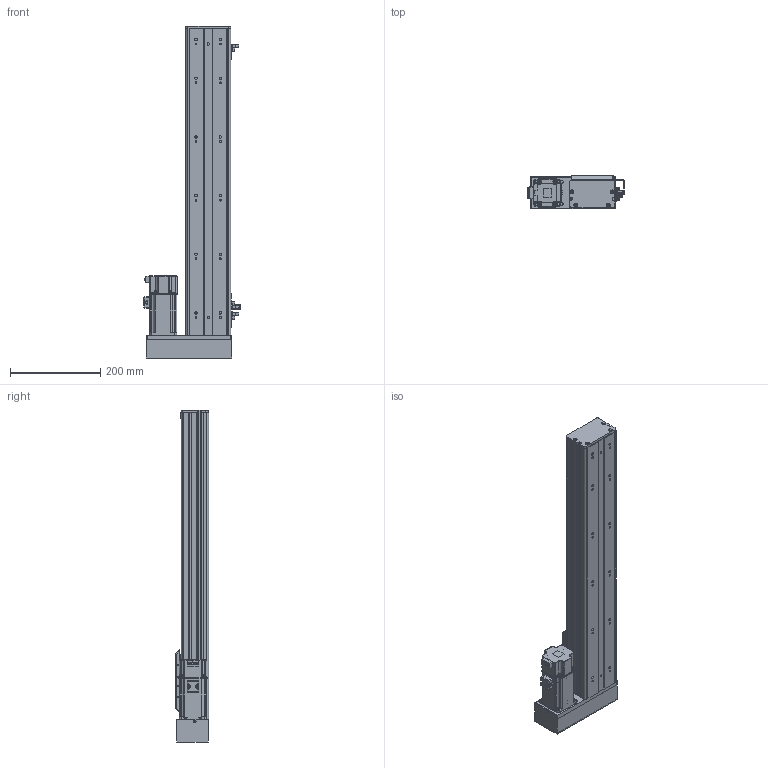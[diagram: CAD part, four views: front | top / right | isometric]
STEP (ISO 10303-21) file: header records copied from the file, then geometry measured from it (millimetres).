
FILE_DESCRIPTION (( 'STEP AP203' ), '1' );
FILE_NAME ('BOSW100-500-1610-1P-RM-M400W-O-S3（方程式2016）.step', '2020-10-10T07:17:52', ( '' ), ( '' ), 'SwSTEP 2.0', 'SolidWorks 2016', '' );
FILE_SCHEMA (( 'CONFIG_CONTROL_DESIGN' ));
Length unit declared in the file: millimetre
Products named in the file (14): BOSW-100-1P-DM-宽轨-钢带-500客户图纸; BOSW-100-1P-DM-宽轨-侧板-500客户图纸; BOSW&TW-100-詩湍揤沭(陔賦凳); BOSW-100-綴裔啣; S400W(SMA-L040); BOSW&TW-100-1P-賑雄釱欶; boS-100-LM&RM-三菱M400W马达板-宽轨; AIMS(W)-100-LM&RM-肮祭謫欶; BOSW-100-1P-DM-500諦誧芞; BOSW100-500-1610-1P-RM-M400W-O-S3（方程式2016）; 放大器内置U型微型光电传感器PM-L65; 新结构AIMSW-100-1P-宽&高轨共用-滑动座上组件; BOSW&TW-100-俋离覜茼え; 俋境嫖覜嘐隅啣
Assembly tree (19 placements, depth 2):
  BOSW100-500-1610-1P-RM-M400W-O-S3（方程式2016）
    BOSW-100-1P-DM-500諦誧芞
    BOSW-100-綴裔啣
    新结构AIMSW-100-1P-宽&高轨共用-滑动座上组件
    S400W(SMA-L040)
    BOSW&TW-100-詩湍揤沭(陔賦凳)  x2
    BOSW&TW-100-1P-賑雄釱欶
    BOSW-100-1P-DM-宽轨-侧板-500客户图纸  x2
    BOSW-100-1P-DM-宽轨-钢带-500客户图纸
    AIMS(W)-100-LM&RM-肮祭謫欶
    boS-100-LM&RM-三菱M400W马达板-宽轨
    俋境嫖覜嘐隅啣  x3
    放大器内置U型微型光电传感器PM-L65  x3
    BOSW&TW-100-俋离覜茼え
Bounding box: 213.4 x 75 x 736 mm (x, y, z)
Volume: 1727497.6 mm3; surface area: 827037 mm2
Topology: 19 solids, 20 shells, 2521 faces, 6651 edges, 4243 vertices
Faces by surface type: plane 1241, cylinder 794, bspline 271, cone 167, torus 36, sphere 12
Entity records: 69100 total; most frequent: CARTESIAN_POINT 20740, ORIENTED_EDGE 9842, DIRECTION 9525, EDGE_CURVE 4921, AXIS2_PLACEMENT_3D 3373, VERTEX_POINT 3145, VECTOR 2779, LINE 2779
